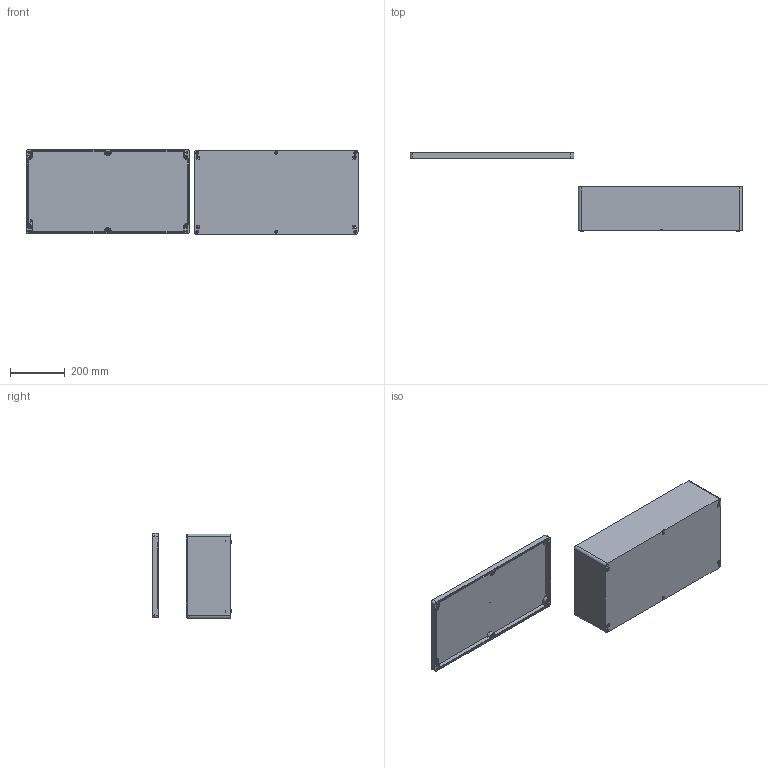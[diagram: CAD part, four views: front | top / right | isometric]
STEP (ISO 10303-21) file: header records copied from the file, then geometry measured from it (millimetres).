
FILE_DESCRIPTION (( 'STEP AP203' ), '1' );
FILE_NAME ('ZX-AL-316018_装配体.STEP', '2022-01-24T09:49:22', ( '微软用户' ), ( '微软中国' ), 'SwSTEP 2.0', 'SolidWorks 2020', '' );
FILE_SCHEMA (( 'CONFIG_CONTROL_DESIGN' ));
Length unit declared in the file: millimetre
Products named in the file (3): ZX-AL-316018_狟; ZX-AL-316018_蚾饜极; ZX-AL-316018_奻
Assembly tree (2 placements, depth 2):
  ZX-AL-316018_蚾饜极
    ZX-AL-316018_狟
    ZX-AL-316018_奻
Bounding box: 1217.86 x 287.5 x 311.89 mm (x, y, z)
Volume: 3976215.5 mm3; surface area: 1445430.6 mm2
Topology: 2 solids, 2 shells, 755 faces, 2032 edges, 1317 vertices
Faces by surface type: plane 356, cylinder 220, bspline 123, cone 56
Entity records: 29385 total; most frequent: CARTESIAN_POINT 10738, ORIENTED_EDGE 4020, DIRECTION 3440, EDGE_CURVE 2010, VERTEX_POINT 1317, VECTOR 1314, LINE 1314, AXIS2_PLACEMENT_3D 1063
